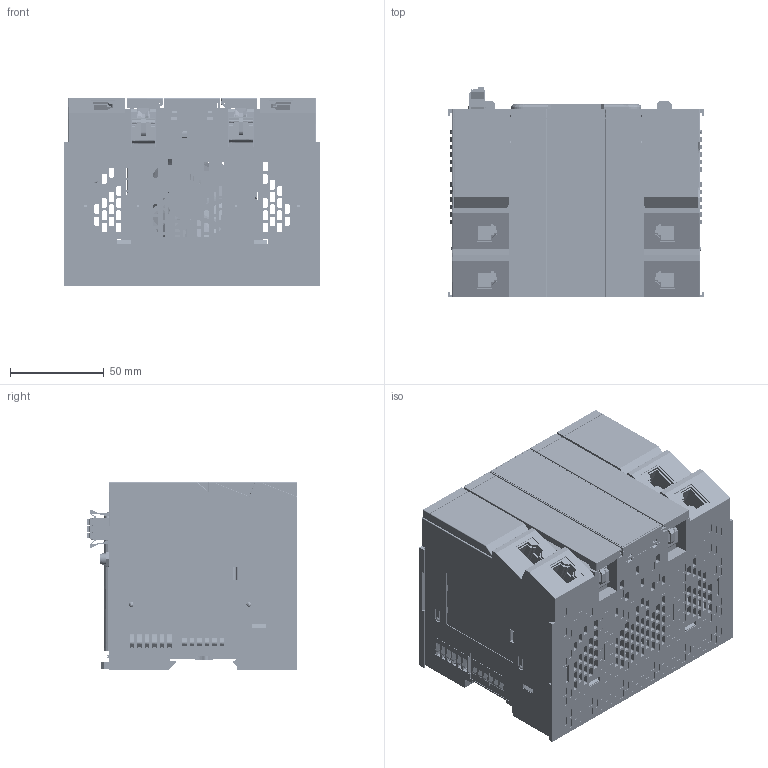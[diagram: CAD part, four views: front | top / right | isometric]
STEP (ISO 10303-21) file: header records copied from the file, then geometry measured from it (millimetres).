
FILE_DESCRIPTION((''),'2;1');
FILE_NAME('000-Q1-MAIN_ASM','2020-08-24T',('Administrator'),(''),'PRO/ENGINEER BY PARAMETRIC TECHNOLOGY CORPORATION, 2010280','PRO/ENGINEER BY PARAMETRIC TECHNOLOGY CORPORATION, 2010280','');
FILE_SCHEMA(('AUTOMOTIVE_DESIGN_CC2 { 1 2 10303 214 -1 1 5 2 }'));
Products named in the file (144): FAN-C-C_ANY; MANIFOLD_SOLID_BREP_84376_ANY; MANIFOLD_SOLID_BREP_88098_ANY; FAN-5010_8_ASM_ASM_ANY_ASM; XHP-4_3_1_ANY; S1; S2; _FAN_COVER_ASM_22_ASM_ASM_ANY; FAN_COVER_ASM_22_ASM_ASM_ANY_ASM; KAKOU_2_1_ANY; SATA-COVER_ANY; XZG-LEFT-LARGE_ANY; BACKCOVER_ANY; XZG-RIGHT-LARGE_ANY; SRP-Q1_15_1_ANY; SHELL_ANY; _PLASTIC_ASM_2_ASM_21_ASM_ASM_2; PLASTIC_ASM_2_ASM_21_ASM_ASM_23_ASM; MANIFOLD_SOLID_BREP_65301_1_26_; MANIFOLD_SOLID_BREP_65357_1_1_1; MANIFOLD_SOLID_BREP_65362_1_1_2; 11H502_17_1_ANY; MANIFOLD_SOLID_BREP_65440_1_1_3; MANIFOLD_SOLID_BREP_65351_1_1_1; PRT0003_2_1_ANY; PRT0004_1_1_ANY; PRT0005_1_1_ANY; PRT0006_1_1_ANY; PRT0007_1_1_ANY; PRT0008_1_1_ANY; PRT0009_1_1_ANY; PRT0010_1_1_ANY; PRT0011_1_1_ANY; ASM0001_ASM_ASM_1_ASM_1_ASM_ASM_ASM; MANIFOLD_SOLID_BREP_545824_ANY; MANIFOLD_SOLID_BREP_545912_ANY; MANIFOLD_SOLID_BREP_546000_ANY; MANIFOLD_SOLID_BREP_546088_ANY; MANIFOLD_SOLID_BREP_207582_1_4__ASM; MANIFOLD_SOLID_BREP_207895_1_2_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
Assembly tree (161 placements, depth 6):
  000-Q1-MAIN_ASM
    PLASTIC_ASM_2_ASM_21_ASM_ASM_23_ASM
      FAN_COVER_ASM_22_ASM_ASM_ANY_ASM
        FAN-C-C_ANY
        FAN-5010_8_ASM_ASM_ANY_ASM
          MANIFOLD_SOLID_BREP_84376_ANY
          MANIFOLD_SOLID_BREP_88098_ANY
        XHP-4_3_1_ANY
        S1
        S2
        _FAN_COVER_ASM_22_ASM_ASM_ANY
      KAKOU_2_1_ANY  x2
      SATA-COVER_ANY
      XZG-LEFT-LARGE_ANY
      BACKCOVER_ANY
      XZG-RIGHT-LARGE_ANY
      SRP-Q1_15_1_ANY
      SHELL_ANY
      _PLASTIC_ASM_2_ASM_21_ASM_ASM_2
    PCBA_IF-L_ASM_3_ASM_28_ASM_ASM__ASM
      MANIFOLD_SOLID_BREP_65301_1_26_
      MANIFOLD_SOLID_BREP_65357_1_1_1
      MANIFOLD_SOLID_BREP_65362_1_1_2
      11H502_17_1_ANY  x2
      MANIFOLD_SOLID_BREP_65440_1_1_3
      MANIFOLD_SOLID_BREP_65351_1_1_1
      ASM0001_ASM_ASM_1_ASM_1_ASM_ASM_ASM  x2
        PRT0003_2_1_ANY
        PRT0004_1_1_ANY
        PRT0005_1_1_ANY
        PRT0006_1_1_ANY
        PRT0007_1_1_ANY
        PRT0008_1_1_ANY
        PRT0009_1_1_ANY
        PRT0010_1_1_ANY
        PRT0011_1_1_ANY
      TERMINAL-3P-35_ASM_3_ASM_ASM_1__ASM
        15EDGRC-35_8_ASM_ASM_1_ASM_2_AS_ASM
          MANIFOLD_SOLID_BREP_207582_1_4__ASM
            MANIFOLD_SOLID_BREP_545824_ANY
            MANIFOLD_SOLID_BREP_545912_ANY
            MANIFOLD_SOLID_BREP_546000_ANY
            MANIFOLD_SOLID_BREP_546088_ANY
          MANIFOLD_SOLID_BREP_207895_1_2_
          MANIFOLD_SOLID_BREP_208208_1_2_
          MANIFOLD_SOLID_BREP_208521_1_2_
        15EDGKN-35_5_3_2_ANY
      ENG_CD_2041119_D_4_1_ANY
      MSATA_2_1_ANY
      GW-22LGV-8-1_3_1_ANY
      CONNECT-LESS_10_1_ANY
      Q1-3PIN-24VPOWER_ASM_2_ASM_ASM__ASM
        15EDGRN-3_5_1_ANY
        15EDGKNG-3_5_1_ANY
    PCBA_IF-R_ASM_2_ASM_18_ASM_ASM__ASM
      MANIFOLD_SOLID_BREP_65300_1_22_
      MANIFOLD_SOLID_BREP_65356_1_1_1
      USB-U322_37_3_1_ANY
      6P-SPRING_ASM_2_ASM_5_ASM_ASM_1_ASM  x2
        MANIFOLD_SOLID_BREP_65422_1_6_1
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Bounding box: 136.3 x 112.3 x 100.1 mm (x, y, z)
Volume: 256918.1 mm3; surface area: 494573.3 mm2
Topology: 190 solids, 220 shells, 30721 faces, 87270 edges, 57302 vertices
Faces by surface type: plane 21297, cylinder 6500, extrusion 1511, bspline 667, cone 468, torus 194, sphere 82, revolution 2
Entity records: 783661 total; most frequent: CARTESIAN_POINT 162936, ORIENTED_EDGE 116502, DIRECTION 106051, EDGE_CURVE 58321, VECTOR 45455, LINE 44580, VERTEX_POINT 38401, AXIS2_PLACEMENT_3D 30297
